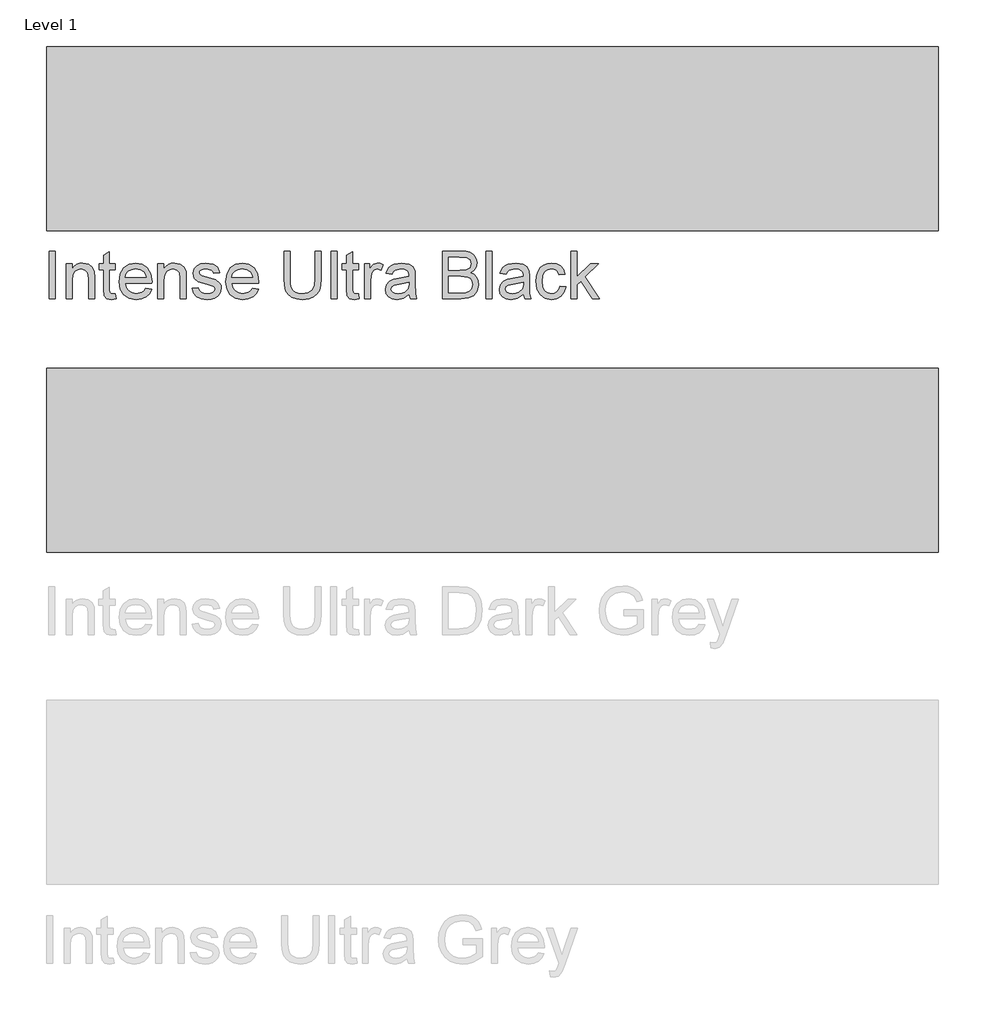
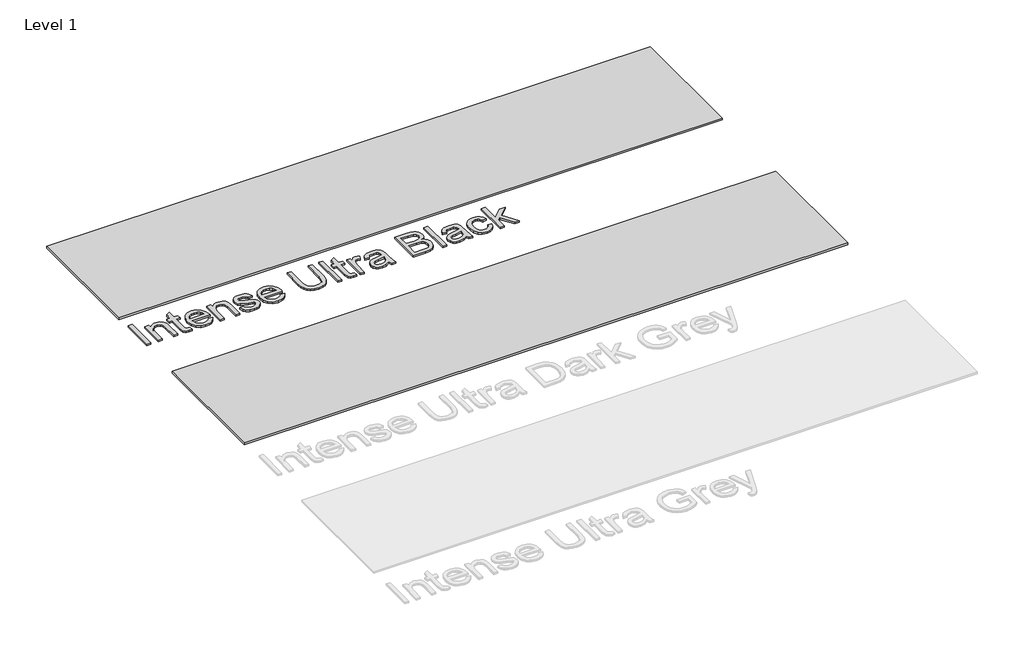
# One storey, part 4 of 4: 3 proxies.
"""IFC4 building model written with IfcOpenShell, lengths in millimetres."""

from ifc_helpers import new_model, si_unit, origin, origin_with_axes, place, context, project, spatial, polyline, outline, extrude, transform, mapped, element, save
from components import generic_models_7f56e2ab

model = new_model("IFC4")

# Units and contexts
model_context = context("Model", 3, world=origin())
ifc_project = project(units=[si_unit("LENGTHUNIT", "METRE", prefix="MILLI")], contexts=[model_context])

# Site, building, storey
site = spatial("IfcSite", under=ifc_project)
building = spatial("IfcBuilding", under=site)
storey = spatial("IfcBuildingStorey", under=building, Name="Level 1", Elevation=0.0)

# Proxies
placement = place(None, origin())
generic_models_shape = generic_models_7f56e2ab(model_context)
element("IfcBuildingElementProxy", 1, Name="Kitchen_Counter-Tops_Indoor-Material_HIMACS_Intense-Ultra : Intense-Ultra-Black_12mm_760x3680mm", ObjectType="Kitchen_Counter-Tops_Indoor-Material_HIMACS_Intense-Ultra : Intense-Ultra-Black_12mm_760x3680mm", at=placement, inside=storey, context=model_context, shape_type="MappedRepresentation", body=[
    mapped(generic_models_shape, transform((-20102.2995655, -143623.6737452, 0.0), x_axis=(1.0, 0.0, 0.0), y_axis=(0.0, 1.0, 0.0), z_axis=(0.0, 0.0, 1.0))),
])
element("IfcBuildingElementProxy", 2, Name="Kitchen_Counter-Tops_Indoor-Material_HIMACS_Intense-Ultra : Intense-Ultra-Dark-Grey_12mm_760x3680mm", ObjectType="Kitchen_Counter-Tops_Indoor-Material_HIMACS_Intense-Ultra : Intense-Ultra-Dark-Grey_12mm_760x3680mm", at=placement, inside=storey, context=model_context, shape_type="MappedRepresentation", body=[
    mapped(generic_models_shape, transform((-20102.2995655, -144950.0424788, 0.0), x_axis=(1.0, 0.0, 0.0), y_axis=(0.0, 1.0, 0.0), z_axis=(0.0, 0.0, 1.0))),
])
element("IfcBuildingElementProxy", 3, Name="600mm Arial", ObjectType="600mm Arial", at=placement, inside=storey, context=model_context, shape_type="SweptSolid", body=[
    extrude(outline(polyline([(-21931.9733809, -144284.1107644), (-21931.9733809, -144087.1876874), (-21907.3579962, -144087.1876874), (-21907.3579962, -144284.1107644), (-21931.9733809, -144284.1107644)])), origin_with_axes(), (0.0, 0.0, 1.0), 10.0),
    extrude(outline(polyline([(-21861.2041501, -144284.1107644), (-21861.2041501, -144139.4953797), (-21836.5887655, -144139.4953797), (-21836.5887655, -144159.6876874), (-21828.0370828, -144149.507399), (-21817.7666501, -144142.2357644), (-21805.7774674, -144137.8727836), (-21792.0695347, -144136.4184567), (-21768.8243424, -144141.1059567), (-21752.9589578, -144153.413649), (-21745.5791501, -144171.5146105), (-21744.2810732, -144195.3126874), (-21744.2810732, -144284.1107644), (-21768.8964578, -144284.1107644), (-21768.8964578, -144198.6299951), (-21771.7329962, -144176.851149), (-21781.7570347, -144165.3367259), (-21798.6560732, -144161.0338413), (-21813.0731405, -144163.4497067), (-21825.3628039, -144170.6973028), (-21833.7822751, -144184.6997067), (-21836.5887655, -144207.3799951), (-21836.5887655, -144284.1107644), (-21861.2041501, -144284.1107644)])), origin_with_axes(), (0.0, 0.0, 1.0), 10.0),
    extrude(outline(polyline([(-21658.127227, -144263.5819182), (-21655.0503039, -144284.8319182), (-21673.4637655, -144287.1876874), (-21694.0887655, -144283.101149), (-21704.377227, -144272.3799951), (-21707.3579962, -144244.4473028), (-21707.3579962, -144164.1107644), (-21725.8195347, -144164.1107644), (-21725.8195347, -144139.4953797), (-21707.3579962, -144139.4953797), (-21707.3579962, -144104.351149), (-21682.7426116, -144089.8799951), (-21682.7426116, -144139.4953797), (-21658.127227, -144139.4953797), (-21658.127227, -144164.1107644), (-21682.7426116, -144164.1107644), (-21682.7426116, -144243.726149), (-21681.4445347, -144256.4184567), (-21677.2378039, -144260.913649), (-21668.8483809, -144262.5723028), (-21658.127227, -144263.5819182)])), origin_with_axes(), (0.0, 0.0, 1.0), 10.0),
    extrude(outline(polyline([(-21532.2618424, -144241.0338413), (-21508.127227, -144244.1107644), (-21516.8231405, -144262.2958605), (-21530.6993424, -144275.8896105), (-21549.4433328, -144284.3631682), (-21572.7426116, -144287.1876874), (-21601.6248232, -144282.3138894), (-21623.8483809, -144267.6924951), (-21638.0190539, -144244.273024), (-21642.7426116, -144213.0049951), (-21637.970977, -144180.6852836), (-21623.6560732, -144156.5146105), (-21601.7329962, -144141.4424951), (-21574.1368424, -144136.4184567), (-21547.4000635, -144141.4304759), (-21526.0358809, -144156.4665336), (-21512.0274674, -144180.5891297), (-21507.3579962, -144212.8607644), (-21507.502227, -144219.4953797), (-21618.127227, -144219.4953797), (-21613.8664097, -144237.9208605), (-21603.9685732, -144251.4665336), (-21589.6837174, -144259.7958605), (-21572.2618424, -144262.5723028), (-21548.127227, -144257.4280721), (-21539.1608809, -144250.757399), (-21532.2618424, -144241.0338413)]), holes=[polyline([(-21618.127227, -144194.8799951), (-21531.9733809, -144194.8799951), (-21535.3027078, -144181.8751874), (-21541.8291501, -144172.5723028), (-21556.1801116, -144163.9184567), (-21574.2329962, -144161.0338413), (-21590.8255443, -144163.335524), (-21604.5454962, -144170.2405721), (-21614.0827559, -144181.0037932), (-21618.127227, -144194.8799951)])]), origin_with_axes(), (0.0, 0.0, 1.0), 10.0),
    extrude(outline(polyline([(-21482.7426116, -144284.1107644), (-21482.7426116, -144139.4953797), (-21458.127227, -144139.4953797), (-21458.127227, -144159.6876874), (-21449.5755443, -144149.507399), (-21439.3051116, -144142.2357644), (-21427.3159289, -144137.8727836), (-21413.6079962, -144136.4184567), (-21390.3628039, -144141.1059567), (-21374.4974193, -144153.413649), (-21367.1176116, -144171.5146105), (-21365.8195347, -144195.3126874), (-21365.8195347, -144284.1107644), (-21390.4349193, -144284.1107644), (-21390.4349193, -144198.6299951), (-21393.2714578, -144176.851149), (-21403.2954962, -144165.3367259), (-21420.1945347, -144161.0338413), (-21434.611602, -144163.4497067), (-21446.9012655, -144170.6973028), (-21455.3207366, -144184.6997067), (-21458.127227, -144207.3799951), (-21458.127227, -144284.1107644), (-21482.7426116, -144284.1107644)])), origin_with_axes(), (0.0, 0.0, 1.0), 10.0),
    extrude(outline(polyline([(-21341.2041501, -144241.0338413), (-21316.5887655, -144237.9569182), (-21312.7065539, -144248.4857644), (-21305.1945347, -144256.226149), (-21294.0046309, -144260.9857644), (-21279.0887655, -144262.5723028), (-21264.3531885, -144261.1179759), (-21253.9926116, -144256.7549951), (-21247.8628039, -144250.4328797), (-21245.8195347, -144243.101149), (-21247.8748232, -144236.8271105), (-21254.0406885, -144232.0434567), (-21279.377227, -144225.0242259), (-21316.4445347, -144212.9809567), (-21332.6224193, -144198.9184567), (-21338.127227, -144179.0626874), (-21333.7041501, -144160.7213413), (-21321.6368424, -144146.7069182), (-21305.9878039, -144139.4232644), (-21284.8099193, -144136.4184567), (-21254.8579962, -144141.2501874), (-21243.6560732, -144146.9352836), (-21235.8195347, -144154.3271105), (-21227.3579962, -144176.4184567), (-21251.9733809, -144179.4953797), (-21255.080352, -144171.7489855), (-21261.2281885, -144165.913649), (-21282.8868424, -144161.0338413), (-21297.0214578, -144162.1997067), (-21306.4445347, -144165.6973028), (-21311.7450155, -144170.7453797), (-21313.5118424, -144176.5626874), (-21310.5791501, -144183.726149), (-21301.3964578, -144189.1588413), (-21280.1945347, -144194.3992259), (-21244.064727, -144205.9857644), (-21227.2858809, -144219.1107644), (-21222.7245828, -144228.7622067), (-21221.2041501, -144240.5049951), (-21222.9890059, -144252.6444182), (-21228.3435732, -144264.0626874), (-21237.0635251, -144273.8643701), (-21248.9445347, -144281.1540336), (-21263.2954962, -144285.679274), (-21279.4253039, -144287.1876874), (-21304.2450155, -144284.2790336), (-21322.3579962, -144275.5530721), (-21334.4493424, -144261.1059567), (-21341.2041501, -144241.0338413)])), origin_with_axes(), (0.0, 0.0, 1.0), 10.0),
    extrude(outline(polyline([(-21092.2618424, -144241.0338413), (-21068.127227, -144244.1107644), (-21076.8231405, -144262.2958605), (-21090.6993424, -144275.8896105), (-21109.4433328, -144284.3631682), (-21132.7426116, -144287.1876874), (-21161.6248232, -144282.3138894), (-21183.8483809, -144267.6924951), (-21198.0190539, -144244.273024), (-21202.7426116, -144213.0049951), (-21197.970977, -144180.6852836), (-21183.6560732, -144156.5146105), (-21161.7329962, -144141.4424951), (-21134.1368424, -144136.4184567), (-21107.4000635, -144141.4304759), (-21086.0358809, -144156.4665336), (-21072.0274674, -144180.5891297), (-21067.3579962, -144212.8607644), (-21067.502227, -144219.4953797), (-21178.127227, -144219.4953797), (-21173.8664097, -144237.9208605), (-21163.9685732, -144251.4665336), (-21149.6837174, -144259.7958605), (-21132.2618424, -144262.5723028), (-21108.127227, -144257.4280721), (-21099.1608809, -144250.757399), (-21092.2618424, -144241.0338413)]), holes=[polyline([(-21178.127227, -144194.8799951), (-21091.9733809, -144194.8799951), (-21095.3027078, -144181.8751874), (-21101.8291501, -144172.5723028), (-21116.1801116, -144163.9184567), (-21134.2329962, -144161.0338413), (-21150.8255443, -144163.335524), (-21164.5454962, -144170.2405721), (-21174.0827559, -144181.0037932), (-21178.127227, -144194.8799951)])]), origin_with_axes(), (0.0, 0.0, 1.0), 10.0),
    extrude(outline(polyline([(-20833.5118424, -144087.1876874), (-20808.8964578, -144087.1876874), (-20808.8964578, -144200.7934567), (-20810.5671309, -144227.398024), (-20815.5791501, -144247.8848028), (-20824.9421309, -144263.6900913), (-20839.6656885, -144276.2501874), (-20859.7858809, -144284.4533124), (-20885.3387655, -144287.1876874), (-20910.3327559, -144284.8078797), (-20930.314727, -144277.6684567), (-20945.2906885, -144266.0158124), (-20955.2666501, -144250.0963413), (-20960.8736212, -144228.7441778), (-20962.7426116, -144200.7934567), (-20962.7426116, -144087.1876874), (-20938.127227, -144087.1876874), (-20938.127227, -144199.9280721), (-20936.9132847, -144222.0494663), (-20933.2714578, -144237.4521105), (-20926.6729001, -144248.1191778), (-20916.5887655, -144256.0338413), (-20903.439727, -144260.9376874), (-20887.6464578, -144262.5723028), (-20862.6104001, -144259.3391297), (-20845.9637655, -144249.6396105), (-20836.6248232, -144230.7453797), (-20833.5118424, -144199.9280721), (-20833.5118424, -144087.1876874)])), origin_with_axes(), (0.0, 0.0, 1.0), 10.0),
    extrude(outline(polyline([(-20768.8964578, -144284.1107644), (-20768.8964578, -144087.1876874), (-20744.2810732, -144087.1876874), (-20744.2810732, -144284.1107644), (-20768.8964578, -144284.1107644)])), origin_with_axes(), (0.0, 0.0, 1.0), 10.0),
    extrude(outline(polyline([(-20655.0503039, -144263.5819182), (-20651.9733809, -144284.8319182), (-20670.3868424, -144287.1876874), (-20691.0118424, -144283.101149), (-20701.3003039, -144272.3799951), (-20704.2810732, -144244.4473028), (-20704.2810732, -144164.1107644), (-20722.7426116, -144164.1107644), (-20722.7426116, -144139.4953797), (-20704.2810732, -144139.4953797), (-20704.2810732, -144104.351149), (-20679.6656885, -144089.8799951), (-20679.6656885, -144139.4953797), (-20655.0503039, -144139.4953797), (-20655.0503039, -144164.1107644), (-20679.6656885, -144164.1107644), (-20679.6656885, -144243.726149), (-20678.3676116, -144256.4184567), (-20674.1608809, -144260.913649), (-20665.7714578, -144262.5723028), (-20655.0503039, -144263.5819182)])), origin_with_axes(), (0.0, 0.0, 1.0), 10.0),
    extrude(outline(polyline([(-20630.4349193, -144284.1107644), (-20630.4349193, -144139.4953797), (-20608.8964578, -144139.4953797), (-20608.8964578, -144160.8896105), (-20593.6079962, -144141.1780721), (-20578.2233809, -144136.4184567), (-20565.9637655, -144138.3174951), (-20553.5118424, -144144.0146105), (-20561.7329962, -144166.0819182), (-20579.0406885, -144161.0338413), (-20592.9589578, -144165.8896105), (-20601.8291501, -144179.351149), (-20605.8195347, -144208.101149), (-20605.8195347, -144284.1107644), (-20630.4349193, -144284.1107644)])), origin_with_axes(), (0.0, 0.0, 1.0), 10.0),
    extrude(outline(polyline([(-20445.8195347, -144265.6492259), (-20469.689727, -144282.3319182), (-20496.0599193, -144287.1876874), (-20516.6308328, -144284.2670144), (-20531.8051116, -144275.5049951), (-20541.1620828, -144262.1997067), (-20544.2810732, -144245.6492259), (-20539.5695347, -144226.1780721), (-20527.189727, -144212.0434567), (-20509.9541501, -144203.9665336), (-20488.6560732, -144200.2646105), (-20445.9637655, -144191.8030721), (-20445.8195347, -144186.3223028), (-20447.5142462, -144175.3367259), (-20452.5983809, -144168.1492259), (-20463.9685732, -144162.8126874), (-20479.8099193, -144161.0338413), (-20504.7137655, -144165.7694182), (-20511.6969385, -144172.3379278), (-20516.5887655, -144182.5723028), (-20541.2041501, -144179.4953797), (-20530.5551116, -144155.4569182), (-20521.4805924, -144147.3679759), (-20509.1128039, -144141.3703797), (-20476.6368424, -144136.4184567), (-20446.8051116, -144140.7934567), (-20429.9541501, -144151.7790336), (-20422.4060732, -144168.4857644), (-20421.2041501, -144190.0242259), (-20421.2041501, -144220.6492259), (-20419.9541501, -144263.413649), (-20415.0503039, -144284.1107644), (-20439.6656885, -144284.1107644), (-20445.8195347, -144265.6492259)]), holes=[polyline([(-20445.8195347, -144216.4184567), (-20485.5310732, -144223.9665336), (-20506.7089578, -144227.9569182), (-20516.3003039, -144234.4473028), (-20519.6656885, -144243.9184567), (-20517.8327559, -144251.2381682), (-20512.3339578, -144257.2357644), (-20503.2894866, -144261.2381682), (-20490.8195347, -144262.5723028), (-20477.5983809, -144261.0999471), (-20465.9156885, -144256.6828797), (-20449.8579962, -144242.4280721), (-20445.9637655, -144223.3896105), (-20445.8195347, -144216.4184567)])]), origin_with_axes(), (0.0, 0.0, 1.0), 10.0),
    extrude(outline(polyline([(-20307.3579962, -144284.1107644), (-20307.3579962, -144087.1876874), (-20232.2137655, -144087.1876874), (-20211.5466982, -144088.6360047), (-20195.4108809, -144092.9809567), (-20183.0430924, -144100.3307163), (-20173.6801116, -144110.7934567), (-20167.7846789, -144123.101149), (-20165.8195347, -144135.9857644), (-20167.4721789, -144147.8427355), (-20172.4301116, -144158.9905721), (-20180.7293905, -144168.7441778), (-20192.4060732, -144176.4184567), (-20178.4577559, -144183.7021105), (-20168.1512655, -144194.7838413), (-20161.7870828, -144208.9304759), (-20159.6656885, -144225.4088413), (-20165.4589578, -144251.8751874), (-20179.8099193, -144270.7213413), (-20201.2281885, -144280.7213413), (-20232.7906885, -144284.1107644), (-20307.3579962, -144284.1107644)]), holes=[polyline([(-20282.7426116, -144167.1876874), (-20237.7906885, -144167.1876874), (-20211.5406885, -144165.0723028), (-20195.7474193, -144155.9617259), (-20190.4349193, -144139.9280721), (-20195.3868424, -144123.8703797), (-20209.5695347, -144114.3751874), (-20241.2041501, -144111.8030721), (-20282.7426116, -144111.8030721), (-20282.7426116, -144167.1876874)]), polyline([(-20282.7426116, -144259.4953797), (-20232.2618424, -144259.4953797), (-20213.9926116, -144258.5338413), (-20198.5358809, -144253.1732644), (-20188.2954962, -144242.2357644), (-20184.2810732, -144225.6492259), (-20188.9926116, -144206.5146105), (-20195.1644866, -144199.5975432), (-20204.2570347, -144195.0963413), (-20234.6656885, -144191.8030721), (-20282.7426116, -144191.8030721), (-20282.7426116, -144259.4953797)])]), origin_with_axes(), (0.0, 0.0, 1.0), 10.0),
    extrude(outline(polyline([(-20128.8964578, -144284.1107644), (-20128.8964578, -144087.1876874), (-20104.2810732, -144087.1876874), (-20104.2810732, -144284.1107644), (-20128.8964578, -144284.1107644)])), origin_with_axes(), (0.0, 0.0, 1.0), 10.0),
    extrude(outline(polyline([(-19975.0503039, -144265.6492259), (-19998.9204962, -144282.3319182), (-20025.2906885, -144287.1876874), (-20045.861602, -144284.2670144), (-20061.0358809, -144275.5049951), (-20070.392852, -144262.1997067), (-20073.5118424, -144245.6492259), (-20068.8003039, -144226.1780721), (-20056.4204962, -144212.0434567), (-20039.1849193, -144203.9665336), (-20017.8868424, -144200.2646105), (-19975.1945347, -144191.8030721), (-19975.0503039, -144186.3223028), (-19976.7450155, -144175.3367259), (-19981.8291501, -144168.1492259), (-19993.1993424, -144162.8126874), (-20009.0406885, -144161.0338413), (-20033.9445347, -144165.7694182), (-20040.9277078, -144172.3379278), (-20045.8195347, -144182.5723028), (-20070.4349193, -144179.4953797), (-20059.7858809, -144155.4569182), (-20050.7113616, -144147.3679759), (-20038.3435732, -144141.3703797), (-20005.8676116, -144136.4184567), (-19976.0358809, -144140.7934567), (-19959.1849193, -144151.7790336), (-19951.6368424, -144168.4857644), (-19950.4349193, -144190.0242259), (-19950.4349193, -144220.6492259), (-19949.1849193, -144263.413649), (-19944.2810732, -144284.1107644), (-19968.8964578, -144284.1107644), (-19975.0503039, -144265.6492259)]), holes=[polyline([(-19975.0503039, -144216.4184567), (-20014.7618424, -144223.9665336), (-20035.939727, -144227.9569182), (-20045.5310732, -144234.4473028), (-20048.8964578, -144243.9184567), (-20047.0635251, -144251.2381682), (-20041.564727, -144257.2357644), (-20032.5202559, -144261.2381682), (-20020.0503039, -144262.5723028), (-20006.8291501, -144261.0999471), (-19995.1464578, -144256.6828797), (-19979.0887655, -144242.4280721), (-19975.1945347, -144223.3896105), (-19975.0503039, -144216.4184567)])]), origin_with_axes(), (0.0, 0.0, 1.0), 10.0),
    extrude(outline(polyline([(-19824.2810732, -144231.8030721), (-19799.6656885, -144234.8799951), (-19806.5286693, -144256.773024), (-19819.4253039, -144273.3174951), (-19837.1416501, -144283.7201394), (-19858.4637655, -144287.1876874), (-19884.6476597, -144282.3499471), (-19905.1224193, -144267.8367259), (-19918.3375635, -144244.2850432), (-19922.7426116, -144212.3319182), (-19920.861602, -144190.4268701), (-19915.2185732, -144171.4424951), (-19905.7233809, -144156.1119663), (-19892.2858809, -144145.1684567), (-19876.2101597, -144138.6059567), (-19858.8003039, -144136.4184567), (-19838.0010251, -144139.4232644), (-19821.3724193, -144148.4376874), (-19809.4433328, -144162.9809567), (-19802.7426116, -144182.5723028), (-19827.3579962, -144185.6492259), (-19831.8231405, -144174.9100432), (-19838.7762655, -144167.2117259), (-19847.8327559, -144162.5783124), (-19858.6079962, -144161.0338413), (-19874.5154482, -144164.0747067), (-19887.1416501, -144173.1973028), (-19895.3808328, -144188.8944182), (-19898.127227, -144211.6588413), (-19895.4409289, -144234.7297547), (-19887.3820347, -144250.4809567), (-19874.9841982, -144259.5494663), (-19859.2810732, -144262.5723028), (-19846.5346789, -144260.6852836), (-19836.0839578, -144255.0242259), (-19828.4817943, -144245.444899), (-19824.2810732, -144231.8030721)])), origin_with_axes(), (0.0, 0.0, 1.0), 10.0),
    extrude(outline(polyline([(-19778.127227, -144284.1107644), (-19778.127227, -144087.1876874), (-19753.5118424, -144087.1876874), (-19753.5118424, -144193.0049951), (-19698.3195347, -144139.4953797), (-19664.2810732, -144139.4953797), (-19720.1464578, -144193.6780721), (-19661.2041501, -144284.1107644), (-19689.9541501, -144284.1107644), (-19737.7906885, -144210.7934567), (-19753.5118424, -144226.0338413), (-19753.5118424, -144284.1107644), (-19778.127227, -144284.1107644)])), origin_with_axes(), (0.0, 0.0, 1.0), 10.0),
])

save(model, "model.ifc")
